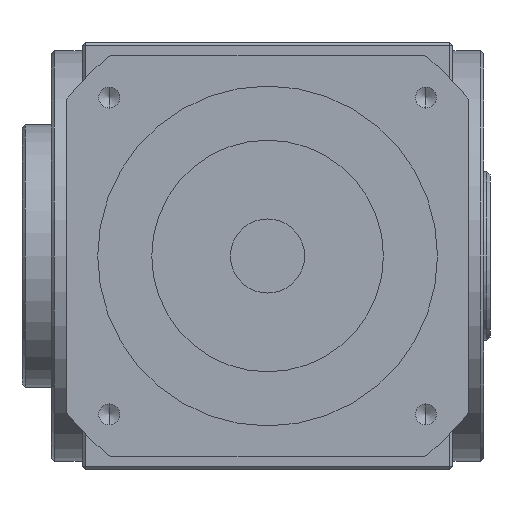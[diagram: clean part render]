
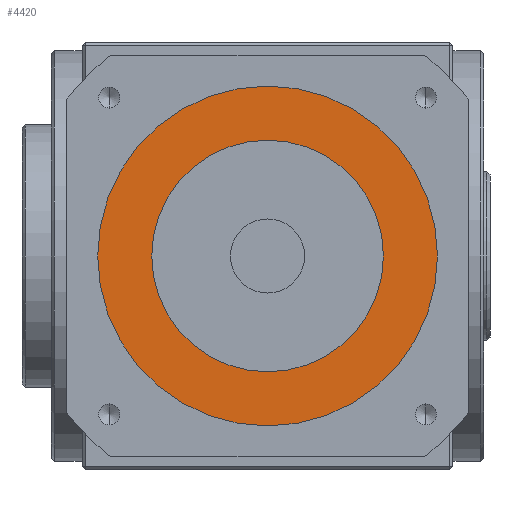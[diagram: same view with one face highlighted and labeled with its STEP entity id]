
A CAD part, front view. The second image highlights one B-rep face of the part: STEP entity #4420.
In plain terms, the highlighted planar face has unit normal (0, -1, 0).
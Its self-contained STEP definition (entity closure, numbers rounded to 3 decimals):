
#289 = DIRECTION ( 'NONE',  ( 0., -1., 0. ) ) ;
#552 = CARTESIAN_POINT ( 'NONE',  ( 0., -204., 55. ) ) ;
#591 = CARTESIAN_POINT ( 'NONE',  ( 0., -204., -55. ) ) ;
#625 = EDGE_CURVE ( 'NONE', #9157, #5187, #758, .T. ) ;
#758 = CIRCLE ( 'NONE', #4325, 55. ) ;
#1003 = AXIS2_PLACEMENT_3D ( 'NONE', #1729, #7807, #2627 ) ;
#1185 = DIRECTION ( 'NONE',  ( 0., 0., -1. ) ) ;
#1199 = DIRECTION ( 'NONE',  ( 0., -1., 0. ) ) ;
#1225 = CARTESIAN_POINT ( 'NONE',  ( 0., -204., 0. ) ) ;
#1292 = FACE_OUTER_BOUND ( 'NONE', #8098, .T. ) ;
#1729 = CARTESIAN_POINT ( 'NONE',  ( 0., -204., 0. ) ) ;
#2627 = DIRECTION ( 'NONE',  ( 0., 0., -1. ) ) ;
#2866 = ORIENTED_EDGE ( 'NONE', *, *, #8567, .T. ) ;
#3153 = ORIENTED_EDGE ( 'NONE', *, *, #625, .T. ) ;
#3237 = CARTESIAN_POINT ( 'NONE',  ( 0., -204., 0. ) ) ;
#3416 = ORIENTED_EDGE ( 'NONE', *, *, #9241, .T. ) ;
#3626 = VERTEX_POINT ( 'NONE', #3913 ) ;
#3913 = CARTESIAN_POINT ( 'NONE',  ( 0., -204., -37.5 ) ) ;
#3973 = EDGE_LOOP ( 'NONE', ( #3416, #4459 ) ) ;
#4137 = DIRECTION ( 'NONE',  ( 0., 0., -1. ) ) ;
#4164 = AXIS2_PLACEMENT_3D ( 'NONE', #10304, #5229, #11157 ) ;
#4325 = AXIS2_PLACEMENT_3D ( 'NONE', #1225, #1199, #1185 ) ;
#4420 = ADVANCED_FACE ( 'NONE', ( #1292, #8222 ), #10017, .T. ) ;
#4459 = ORIENTED_EDGE ( 'NONE', *, *, #8795, .T. ) ;
#4605 = VERTEX_POINT ( 'NONE', #6155 ) ;
#5187 = VERTEX_POINT ( 'NONE', #591 ) ;
#5229 = DIRECTION ( 'NONE',  ( 0., 1., 0. ) ) ;
#5611 = CARTESIAN_POINT ( 'NONE',  ( 0., -204., 0. ) ) ;
#6155 = CARTESIAN_POINT ( 'NONE',  ( 0., -204., 37.5 ) ) ;
#6464 = DIRECTION ( 'NONE',  ( 0., 0., -1. ) ) ;
#6488 = AXIS2_PLACEMENT_3D ( 'NONE', #5611, #289, #6464 ) ;
#6880 = CIRCLE ( 'NONE', #1003, 37.5 ) ;
#7161 = CIRCLE ( 'NONE', #6488, 55. ) ;
#7594 = AXIS2_PLACEMENT_3D ( 'NONE', #3237, #9196, #4137 ) ;
#7807 = DIRECTION ( 'NONE',  ( 0., 1., 0. ) ) ;
#8098 = EDGE_LOOP ( 'NONE', ( #2866, #3153 ) ) ;
#8201 = CIRCLE ( 'NONE', #4164, 37.5 ) ;
#8222 = FACE_BOUND ( 'NONE', #3973, .T. ) ;
#8567 = EDGE_CURVE ( 'NONE', #5187, #9157, #7161, .T. ) ;
#8795 = EDGE_CURVE ( 'NONE', #4605, #3626, #8201, .T. ) ;
#9157 = VERTEX_POINT ( 'NONE', #552 ) ;
#9196 = DIRECTION ( 'NONE',  ( 0., -1., 0. ) ) ;
#9241 = EDGE_CURVE ( 'NONE', #3626, #4605, #6880, .T. ) ;
#10017 = PLANE ( 'NONE',  #7594 ) ;
#10304 = CARTESIAN_POINT ( 'NONE',  ( 0., -204., 0. ) ) ;
#11157 = DIRECTION ( 'NONE',  ( 0., 0., -1. ) ) ;
